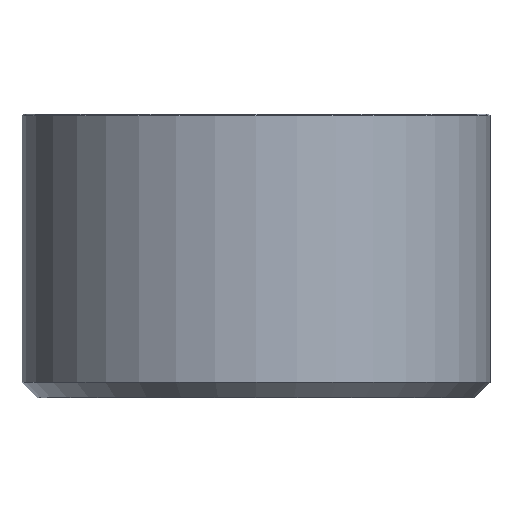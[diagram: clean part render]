
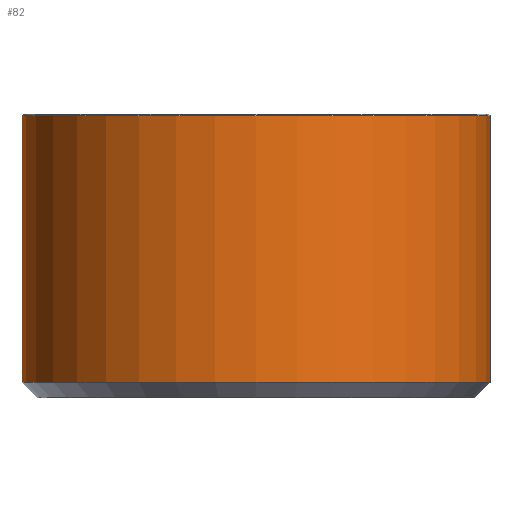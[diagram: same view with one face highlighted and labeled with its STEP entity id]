
A CAD part, front view. The second image highlights one B-rep face of the part: STEP entity #82.
In plain terms, the highlighted cylindrical face has radius 15 mm (diameter 30 mm), a full revolution.
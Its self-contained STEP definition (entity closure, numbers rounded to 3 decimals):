
#35=CYLINDRICAL_SURFACE('',#660,15.);
#82=ADVANCED_FACE('',(#137,#138),#35,.T.);
#137=FACE_BOUND('',#213,.T.);
#138=FACE_BOUND('',#214,.T.);
#213=EDGE_LOOP('',(#315));
#214=EDGE_LOOP('',(#316));
#315=ORIENTED_EDGE('',*,*,#470,.T.);
#316=ORIENTED_EDGE('',*,*,#471,.T.);
#413=VERTEX_POINT('',#1010);
#414=VERTEX_POINT('',#1012);
#470=EDGE_CURVE('',#413,#413,#523,.T.);
#471=EDGE_CURVE('',#414,#414,#524,.T.);
#523=CIRCLE('',#658,15.);
#524=CIRCLE('',#659,15.);
#658=AXIS2_PLACEMENT_3D('',#1009,#801,#802);
#659=AXIS2_PLACEMENT_3D('',#1011,#803,#804);
#660=AXIS2_PLACEMENT_3D('',#1013,#805,#806);
#801=DIRECTION('',(0.,0.,-1.));
#802=DIRECTION('',(1.,0.,0.));
#803=DIRECTION('',(0.,0.,1.));
#804=DIRECTION('',(-1.,0.,0.));
#805=DIRECTION('',(0.,0.,1.));
#806=DIRECTION('',(1.,0.,0.));
#1009=CARTESIAN_POINT('',(0.,0.,18.1));
#1010=CARTESIAN_POINT('',(15.,0.,18.1));
#1011=CARTESIAN_POINT('',(0.,0.,1.));
#1012=CARTESIAN_POINT('',(-15.,0.,1.));
#1013=CARTESIAN_POINT('',(0.,0.,0.));
